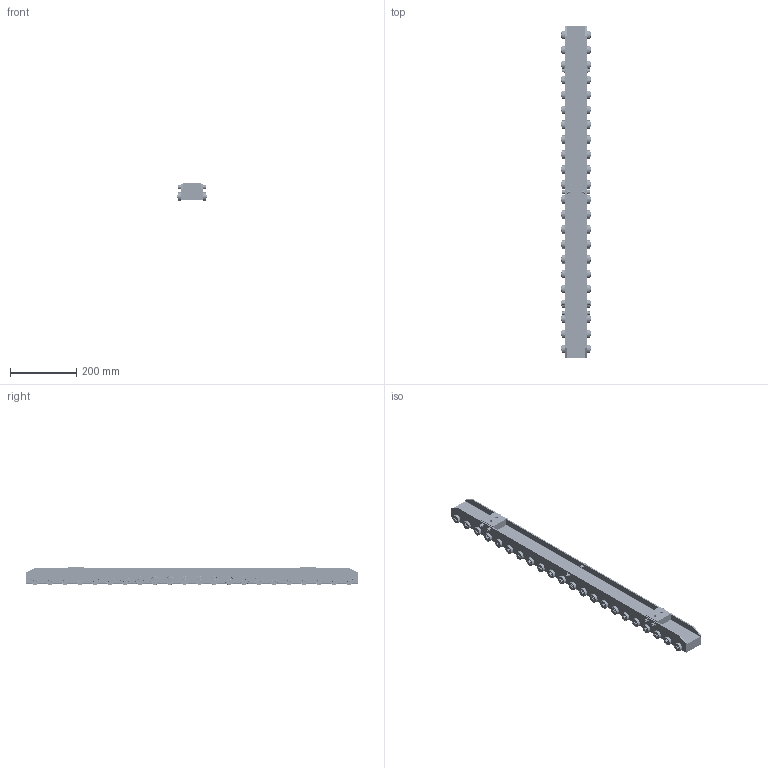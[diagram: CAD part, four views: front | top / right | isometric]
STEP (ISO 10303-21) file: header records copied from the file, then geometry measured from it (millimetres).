
FILE_DESCRIPTION(/* description */ (''),/* implementation_level */ '2;1');
FILE_NAME(/* name */ 'C:/Users/hiroshi_y/Documents/Fusion 360/SPR-RSPO-065Wx050Hx1000L.step',/* time_stamp */ '2022-11-15T14:48:53+09:00',/* author */ (''),/* organization */ (''),/* preprocessor_version */ 'ST-DEVELOPER v19',/* originating_system */ 'Autodesk Translation Framework v11.7.0.108',/* authorisation */ '');
FILE_SCHEMA (('AUTOMOTIVE_DESIGN { 1 0 10303 214 3 1 1 }'));
Products named in the file (86): SPR-RSPO-065Wx050Hx1000L; BODY1; UNUTKZ6; CAP_BOLT_M6(L=16) v1(ミラー) (1); UNUTKZ6 v2(ミラー); BODY2; Bracket; Shaft; 6000ZZ; 6000ZZ v1(ミラー); Shaft_1; 6000ZZ_1; 6000ZZ v1(ミラー)_1; Shaft_2; 6000ZZ_2; 6000ZZ v1(ミラー)_2; Shaft_3; 6000ZZ_3; 6000ZZ v1(ミラー)_3; Shaft_4; 6000ZZ_4; 6000ZZ v1(ミラー)_4; Shaft_5; 6000ZZ_5; 6000ZZ v1(ミラー)_5; Shaft_6; 6000ZZ_6; 6000ZZ v1(ミラー)_6; Shaft_7; 6000ZZ_7; 6000ZZ v1(ミラー)_7; Shaft_8; 6000ZZ_8; 6000ZZ v1(ミラー)_8; Shaft_9; 6000ZZ_9; 6000ZZ v1(ミラー)_9; Shaft_10; 6000ZZ_10; 6000ZZ v1(ミラー)_10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
Assembly tree (610 placements, depth 4):
  SPR-RSPO-065Wx050Hx1000L
    BODY1
      CAP_BOLT_M6(L=16)
      UNUTKZ6
      CAP_BOLT_M6(L=16) v1(ミラー) (1)
      UNUTKZ6 v2(ミラー)
    BODY2
    Bracket
      CAP_BOLT_M6(L=16)  x2
      CAP_BOLT_M6(L=16) v1(ミラー)  x2
    Shaft
      6000ZZ
        6000ZZ_shield  x2
        6000ZZ_or
        6000ZZ_ball  x7
        6000ZZ_cage
        6000ZZ_ir
      6000ZZ v1(ミラー)
        6000ZZ_shield(ミラー)  x2
        6000ZZ_or(ミラー)
        6000ZZ_ball(ミラー)  x7
        6000ZZ_cage(ミラー)
        6000ZZ_ir(ミラー)
    Shaft_1
      6000ZZ_1
        6000ZZ_shield  x2
        6000ZZ_or
        6000ZZ_ball  x7
        6000ZZ_cage
        6000ZZ_ir
      6000ZZ v1(ミラー)_1
        6000ZZ_shield(ミラー)  x2
        6000ZZ_or(ミラー)
        6000ZZ_ball(ミラー)  x7
        6000ZZ_cage(ミラー)
        6000ZZ_ir(ミラー)
    Shaft_2
      6000ZZ_2
        6000ZZ_shield  x2
        6000ZZ_or
        6000ZZ_ball  x7
        6000ZZ_cage
        6000ZZ_ir
      6000ZZ v1(ミラー)_2
        6000ZZ_shield(ミラー)  x2
        6000ZZ_or(ミラー)
        6000ZZ_ball(ミラー)  x7
        6000ZZ_cage(ミラー)
        6000ZZ_ir(ミラー)
    Shaft_3
      6000ZZ_3
        6000ZZ_shield  x2
        6000ZZ_or
        6000ZZ_ball  x7
        6000ZZ_cage
        6000ZZ_ir
      6000ZZ v1(ミラー)_3
        6000ZZ_shield(ミラー)  x2
        6000ZZ_or(ミラー)
        6000ZZ_ball(ミラー)  x7
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Bounding box: 92 x 1000 x 54 mm (x, y, z)
Volume: 917190.9 mm3; surface area: 864552.1 mm2
Topology: 708 solids, 708 shells, 3934 faces, 9556 edges, 6178 vertices
Faces by surface type: cylinder 1310, plane 1138, sphere 616, torus 442, cone 428
Full cylindrical faces by diameter (mm): 2 x44, 4.917 x2, 5.035 x4, 5.5 x20, 6 x10, 6.5 x10, 8 x2, 8.526 x4, 10 x122, 10.2 x88, 13.75 x176, 14 x10, 14.703 x88, 16 x88, 16.809 x44, 19.191 x44, 20.704 x88, 22.8 x176, 26 x44
Entity records: 56848 total; most frequent: CARTESIAN_POINT 15821, DIRECTION 8472, ORIENTED_EDGE 7148, EDGE_CURVE 3574, AXIS2_PLACEMENT_3D 3469, VERTEX_POINT 2352, EDGE_LOOP 1948, FACE_OUTER_BOUND 1534
